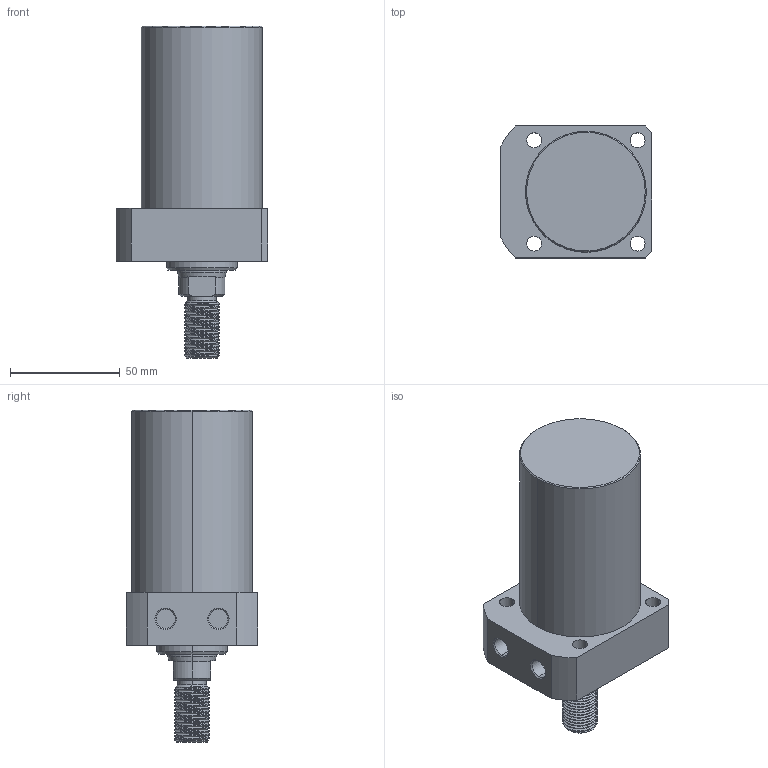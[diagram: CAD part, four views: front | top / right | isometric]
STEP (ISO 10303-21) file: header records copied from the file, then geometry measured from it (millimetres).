
FILE_DESCRIPTION (( 'STEP AP214' ), '1' );
FILE_NAME ('CLLR-055CT-070.STEP', '2020-01-09T00:41:45', ( 'Windows' ), ( 'Microsoft' ), 'SwSTEP 2.0', 'SolidWorks 2015', '' );
FILE_SCHEMA (( 'AUTOMOTIVE_DESIGN' ));
Length unit declared in the file: millimetre
Products named in the file (1): CLLR-055CT-070
Bounding box: 69 x 60 x 151 mm (x, y, z)
Volume: 301560.9 mm3; surface area: 34288.3 mm2
Topology: 1 solids, 1 shells, 101 faces, 260 edges, 169 vertices
Faces by surface type: cylinder 61, plane 20, cone 18, bspline 2
Entity records: 5039 total; most frequent: CARTESIAN_POINT 2692, ORIENTED_EDGE 520, DIRECTION 454, EDGE_CURVE 260, AXIS2_PLACEMENT_3D 177, VERTEX_POINT 169, EDGE_LOOP 117, FACE_OUTER_BOUND 101
